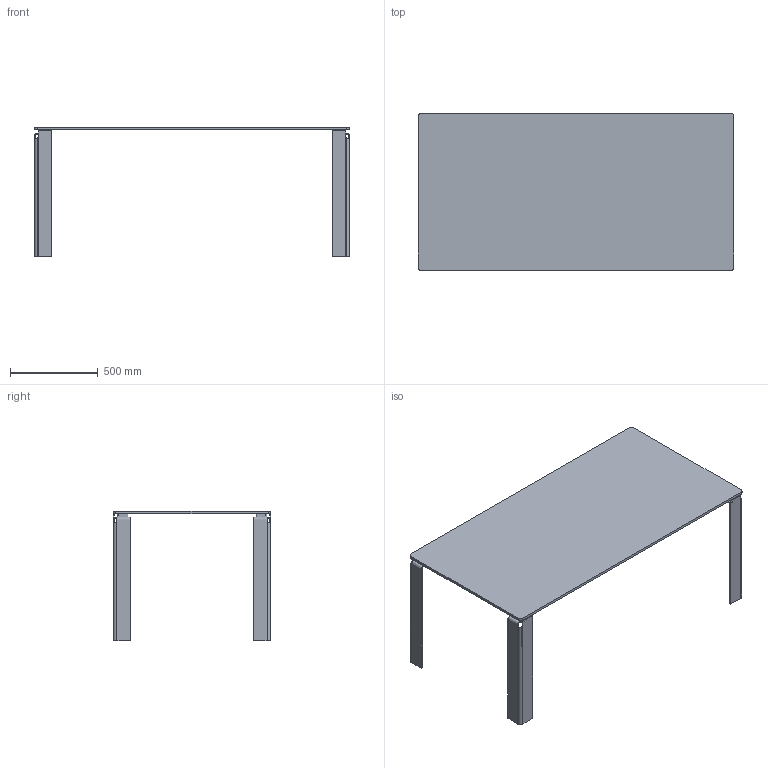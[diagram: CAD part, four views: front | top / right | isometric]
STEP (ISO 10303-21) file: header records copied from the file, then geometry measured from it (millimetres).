
FILE_DESCRIPTION(/* description */ (''),/* implementation_level */ '2;1');
FILE_NAME(/* name */ '4010AC - Newton 180x90 Acciaio',/* time_stamp */ '2012-06-20T09:54:04+02:00',/* author */ (''),/* organization */ (''),/* preprocessor_version */ 'ST-DEVELOPER v10',/* originating_system */ '',/* authorisation */ '');
FILE_SCHEMA (('CONFIG_CONTROL_DESIGN'));
Length unit declared in the file: millimetre
Products named in the file (1): 1
Bounding box: 1800 x 900 x 742 mm (x, y, z)
Volume: 27875884.8 mm3; surface area: 4547081.3 mm2
Topology: 9 solids, 9 shells, 174 faces, 412 edges, 248 vertices
Faces by surface type: bspline 96, plane 78
Entity records: 5288 total; most frequent: CARTESIAN_POINT 2628, ORIENTED_EDGE 824, EDGE_CURVE 412, VERTEX_POINT 248, B_SPLINE_CURVE_WITH_KNOTS 232, EDGE_LOOP 206, ADVANCED_FACE 174, FACE_OUTER_BOUND 174
